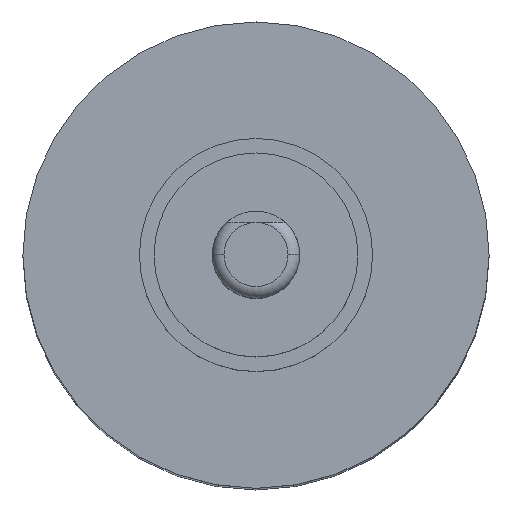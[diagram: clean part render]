
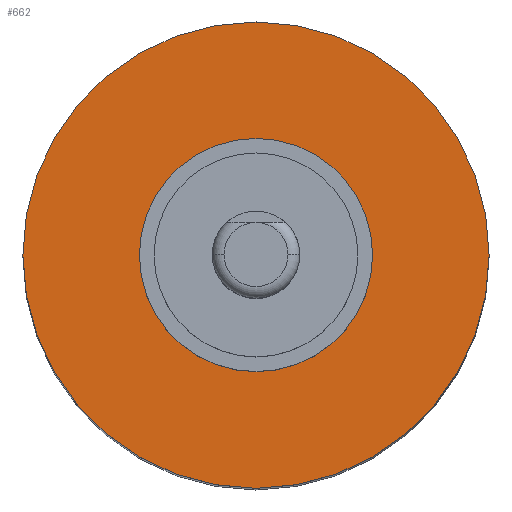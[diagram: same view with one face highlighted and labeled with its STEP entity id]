
A CAD part, top view. The second image highlights one B-rep face of the part: STEP entity #662.
In plain terms, the highlighted planar face has unit normal (0, 0, 1).
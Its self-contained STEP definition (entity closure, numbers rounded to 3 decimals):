
#59 = AXIS2_PLACEMENT_3D ( 'NONE', #823, #670, #974 ) ;
#66 = PLANE ( 'NONE',  #59 ) ;
#114 = CARTESIAN_POINT ( 'NONE',  ( 0., 0., -6. ) ) ;
#146 = CIRCLE ( 'NONE', #835, 4. ) ;
#147 = AXIS2_PLACEMENT_3D ( 'NONE', #842, #456, #763 ) ;
#382 = VERTEX_POINT ( 'NONE', #703 ) ;
#440 = CARTESIAN_POINT ( 'NONE',  ( 0., -4., -6. ) ) ;
#456 = DIRECTION ( 'NONE',  ( 0., 0., 1. ) ) ;
#481 = DIRECTION ( 'NONE',  ( 0., -1., 0. ) ) ;
#662 = ADVANCED_FACE ( 'NONE', ( #750 ), #66, .T. ) ;
#669 = VERTEX_POINT ( 'NONE', #440 ) ;
#670 = DIRECTION ( 'NONE',  ( 0., 0., 1. ) ) ;
#691 = CIRCLE ( 'NONE', #147, 4. ) ;
#703 = CARTESIAN_POINT ( 'NONE',  ( 0., 4., -6. ) ) ;
#750 = FACE_OUTER_BOUND ( 'NONE', #811, .T. ) ;
#763 = DIRECTION ( 'NONE',  ( 0., -1., 0. ) ) ;
#792 = ORIENTED_EDGE ( 'NONE', *, *, #898, .T. ) ;
#809 = EDGE_CURVE ( 'NONE', #382, #669, #691, .T. ) ;
#811 = EDGE_LOOP ( 'NONE', ( #792, #932 ) ) ;
#823 = CARTESIAN_POINT ( 'NONE',  ( 0., 0., -6. ) ) ;
#835 = AXIS2_PLACEMENT_3D ( 'NONE', #114, #873, #481 ) ;
#842 = CARTESIAN_POINT ( 'NONE',  ( 0., 0., -6. ) ) ;
#873 = DIRECTION ( 'NONE',  ( 0., 0., 1. ) ) ;
#898 = EDGE_CURVE ( 'NONE', #669, #382, #146, .T. ) ;
#932 = ORIENTED_EDGE ( 'NONE', *, *, #809, .T. ) ;
#974 = DIRECTION ( 'NONE',  ( 0., -1., 0. ) ) ;
